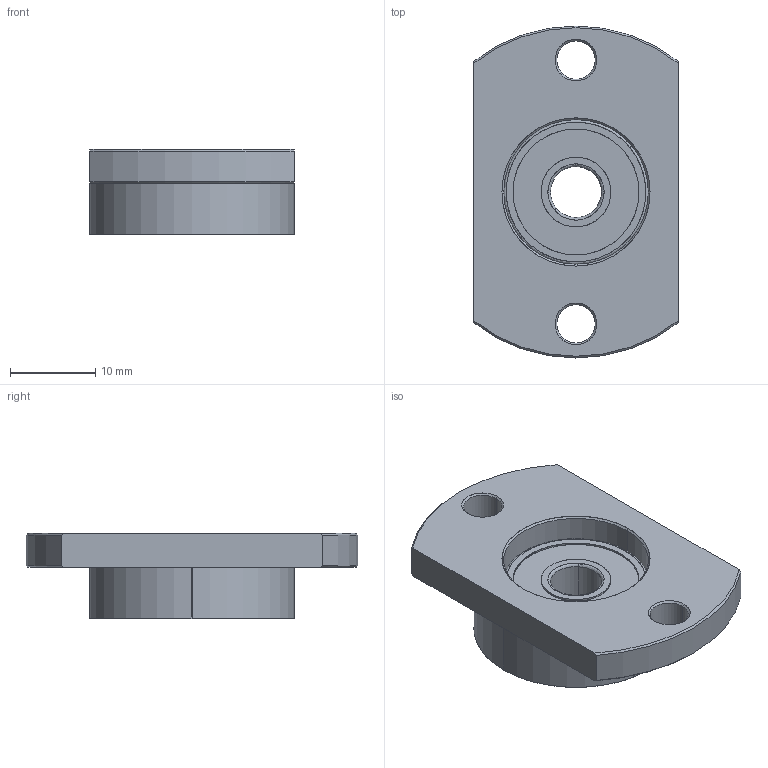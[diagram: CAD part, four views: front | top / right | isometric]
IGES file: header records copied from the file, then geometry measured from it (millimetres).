
Start section: SolidWorks IGES file using analytic representation for surfaces
Global section: file name: C:\Users\watanabe\Desktop\MSU-8\MSU8GS.IGS; native system: SolidWorks 2010; preprocessor: SolidWorks 2010; author: watanabe; date: 120613.104335; units: millimetre
Bounding box: 24 x 39 x 10 mm (x, y, z)
Surface area: 3590.8 mm2 (no closed solid volume)
Topology: 0 solids, 0 shells, 58 faces, 880 edges, 880 vertices
Faces by surface type: revolution 38, bspline 20
